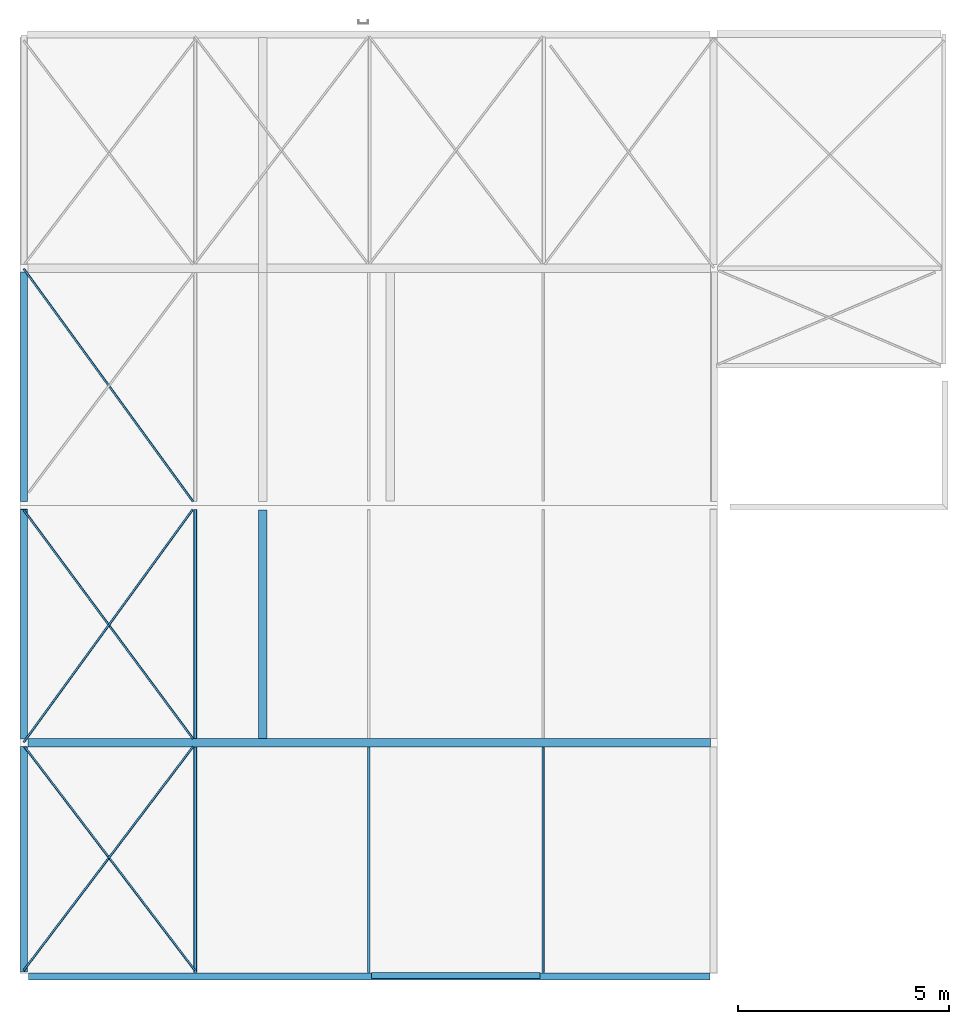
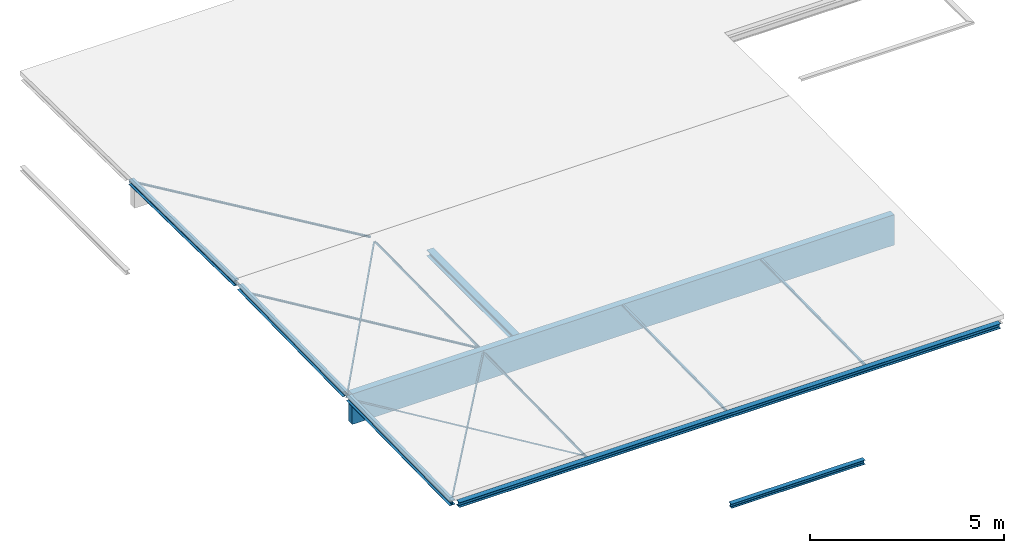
# One storey, part 1 of 5: 16 beams.
"""IFC2X3 building model written with IfcOpenShell, lengths in millimetres."""

import ifcopenshell
import ifcopenshell.guid

model = None  # the IFC model being written
_history = None  # IfcOwnerHistory: only IFC2X3 demands one
_inside = {}  # id of a spatial element -> (the spatial element, [elements in it])
_under = {}  # id of a project, library or spatial element -> (it, [spatial elements below it])
_declared = {}  # id of a project -> (the project, [libraries it declares])
_typed = {}  # id of a type object -> (the type object, [elements of that type])
_made_of = {}  # id of a material, layer set ... -> (it, [elements and type objects made of it])


def new_model(schema):
    """Start an empty IFC model of exactly this schema.

    Asked for "IFC4X3", IfcOpenShell would pick the latest addendum, in which some entities
    have other attributes; the version numbers below select the first issue.
    IFC2X3 requires an IfcOwnerHistory on every rooted entity: one is made here for all.
    """
    global model, _history
    if schema == "IFC4X3":
        model = ifcopenshell.file(schema_version=(4, 3, 0, 0))
    else:
        model = ifcopenshell.file(schema=schema)
    _inside.clear()
    _under.clear()
    _declared.clear()
    _typed.clear()
    _made_of.clear()
    _history = None
    if model.schema == "IFC2X3":
        org = make("IfcOrganization", Name="unknown")
        user = make(
            "IfcPersonAndOrganization",
            ThePerson=make("IfcPerson", FamilyName="unknown"),
            TheOrganization=org,
        )
        app = make(
            "IfcApplication",
            ApplicationDeveloper=org,
            Version="unknown",
            ApplicationFullName="unknown",
            ApplicationIdentifier="unknown",
        )
        _history = make(
            "IfcOwnerHistory",
            OwningUser=user,
            OwningApplication=app,
            ChangeAction="ADDED",
            CreationDate=0,
        )
    return model


def make(cls, **values):
    """One entity of the class cls with the attributes given. An attribute that is None is left unset."""
    return model.create_entity(
        cls, **{name: value for name, value in values.items() if value is not None}
    )


def entity(cls, *values):
    """Any entity or typed value of the class cls, its attributes in the order of the schema. None: left unset."""
    e = model.create_entity(cls)
    for i, value in enumerate(values):
        if value is not None:
            e[i] = value
    return e


def rooted(cls, **values):
    """An entity with a GlobalId (a new one), such as an element, a storey or a relation."""
    return make(cls, GlobalId=ifcopenshell.guid.new(), OwnerHistory=_history, **values)


def si_unit(unit_type, name, prefix=None):
    """IfcSIUnit, for example si_unit("LENGTHUNIT", "METRE", prefix="MILLI")."""
    return make("IfcSIUnit", UnitType=unit_type, Prefix=prefix, Name=name)


def converted_unit(unit_type, name, factor, base, dimensions=None, offset=None):
    """IfcConversionBasedUnit, such as the inch: factor (a typed value) times the base unit."""
    return make(
        "IfcConversionBasedUnit"
        if offset is None
        else "IfcConversionBasedUnitWithOffset",
        ConversionOffset=offset,
        Dimensions=None
        if dimensions is None
        else entity("IfcDimensionalExponents", *dimensions),
        UnitType=unit_type,
        Name=name,
        ConversionFactor=make(
            "IfcMeasureWithUnit", ValueComponent=factor, UnitComponent=base
        ),
    )


def derived_unit(unit_type, elements):
    """IfcDerivedUnit: a product of units, each with its exponent."""
    return make(
        "IfcDerivedUnit",
        Elements=[
            make("IfcDerivedUnitElement", Unit=unit, Exponent=power)
            for unit, power in elements
        ],
        UnitType=unit_type,
    )


def assignment(units):
    """IfcUnitAssignment: the units of a project."""
    return None if units is None else make("IfcUnitAssignment", Units=units)


def point(xyz):
    """IfcCartesianPoint."""
    return None if xyz is None else make("IfcCartesianPoint", Coordinates=xyz)


def direction(xyz):
    """IfcDirection."""
    return None if xyz is None else make("IfcDirection", DirectionRatios=xyz)


def frame(location, z_axis=None, x_axis=None):
    """IfcAxis2Placement3D, a coordinate frame: its origin and axes. An axis left out is left unset."""
    return make(
        "IfcAxis2Placement3D",
        Location=point(location),
        Axis=direction(z_axis),
        RefDirection=direction(x_axis),
    )


def frame_2d(location, x_axis=None):
    """IfcAxis2Placement2D, a coordinate frame in the plane: its origin and x axis."""
    return make(
        "IfcAxis2Placement2D", Location=point(location), RefDirection=direction(x_axis)
    )


def origin():
    """The frame at (0, 0, 0) with its axes left unset."""
    return frame((0.0, 0.0, 0.0))


def place(relative_to, where):
    """IfcLocalPlacement: puts the frame where relative to a parent placement (None: the world)."""
    return make(
        "IfcLocalPlacement", PlacementRelTo=relative_to, RelativePlacement=where
    )


def context(
    kind, dimensions, precision=None, world=None, true_north=None, identifier=None
):
    """IfcGeometricRepresentationContext, for example the 3D "Model" context."""
    return make(
        "IfcGeometricRepresentationContext",
        ContextIdentifier=identifier,
        ContextType=kind,
        CoordinateSpaceDimension=dimensions,
        Precision=precision,
        WorldCoordinateSystem=world,
        TrueNorth=true_north,
    )


def subcontext(parent, identifier, kind, view, scale=None):
    """IfcGeometricRepresentationSubContext, for example "Body" below "Model"."""
    return make(
        "IfcGeometricRepresentationSubContext",
        ContextIdentifier=identifier,
        ContextType=kind,
        ParentContext=parent,
        TargetScale=scale,
        TargetView=view,
    )


def project(units=None, contexts=None):
    """IfcProject with its units and contexts."""
    return rooted(
        "IfcProject",
        Name="project",
        RepresentationContexts=contexts,
        UnitsInContext=assignment(units),
    )


def spatial(cls, under=None, at=None, **own):
    """A site, building, storey or space (cls), placed at a placement, below another one or the project."""
    s = rooted(cls, ObjectPlacement=at, **own)
    if under is not None:
        _under.setdefault(under.id(), (under, []))[1].append(s)
    return s


def polyline(points):
    """IfcPolyline through the points."""
    return make("IfcPolyline", Points=[point(p) for p in points])


def circle_curve(where, radius):
    """IfcCircle in the frame where."""
    return make("IfcCircle", Position=where, Radius=radius)


def parameter(value):
    """IfcParameterValue: where a trimmed curve begins or ends, as a parameter of its basis curve."""
    return model.create_entity("IfcParameterValue", value)


def trimmed(basis, trim1, trim2, sense, master):
    """IfcTrimmedCurve: the piece of a basis curve between two trims."""
    return make(
        "IfcTrimmedCurve",
        BasisCurve=basis,
        Trim1=trim1,
        Trim2=trim2,
        SenseAgreement=sense,
        MasterRepresentation=master,
    )


def segment(curve, same_sense, transition):
    """IfcCompositeCurveSegment."""
    return make(
        "IfcCompositeCurveSegment",
        Transition=transition,
        SameSense=same_sense,
        ParentCurve=curve,
    )


def composite_curve(segments, self_intersect=None):
    """IfcCompositeCurve: segments joined end to end."""
    return make("IfcCompositeCurve", Segments=segments, SelfIntersect=self_intersect)


def profile(cls, at=None, kind="AREA", **sizes):
    """A parametric profile (cls). Its sizes go by their IFC names, for example OverallWidth=200.0."""
    return make(cls, ProfileType=kind, Position=at, **sizes)


def rectangle(**sizes):
    """IfcRectangleProfileDef."""
    return profile("IfcRectangleProfileDef", **sizes)


def i_section(**sizes):
    """IfcIShapeProfileDef."""
    return profile("IfcIShapeProfileDef", **sizes)


def outline(outer, holes=None, kind="AREA"):
    """IfcArbitraryClosedProfileDef: a profile drawn as a closed curve; with holes, ...WithVoids."""
    if holes is None:
        return make("IfcArbitraryClosedProfileDef", ProfileType=kind, OuterCurve=outer)
    return make(
        "IfcArbitraryProfileDefWithVoids",
        ProfileType=kind,
        OuterCurve=outer,
        InnerCurves=holes,
    )


def extrude(swept, where, along, depth):
    """IfcExtrudedAreaSolid: the profile swept, set in the frame where, extruded along a direction by depth."""
    return make(
        "IfcExtrudedAreaSolid",
        SweptArea=swept,
        Position=where,
        ExtrudedDirection=direction(along),
        Depth=depth,
    )


def shape(context_of_items, identifier, shape_type, items):
    """IfcShapeRepresentation: the items that make up one representation, for example the "Body"."""
    return make(
        "IfcShapeRepresentation",
        ContextOfItems=context_of_items,
        RepresentationIdentifier=identifier,
        RepresentationType=shape_type,
        Items=items,
    )


def material(Name=None, Category=None):
    """IfcMaterial."""
    return make("IfcMaterial", Name=Name, Category=Category)


def made_of(thing, what):
    """Note that an element or type object is made of a material, layer set ...; save() writes the relation."""
    if what is not None:
        _made_of.setdefault(what.id(), (what, []))[1].append(thing)
    return thing


def type_object(cls, material=None, **own):
    """A type object (cls), such as IfcWallType, which elements share."""
    return made_of(rooted(cls, **own), material)


def element(
    cls,
    number,
    at=None,
    inside=None,
    cuts=None,
    type_object=None,
    material=None,
    context=None,
    identifier="Body",
    shape_type=None,
    held_by="IfcProductDefinitionShape",
    body=None,
    shapes=None,
    **own,
):
    """One element of the class cls, such as IfcWall. Its Tag is "e" and its number.

    at: its placement. inside: the storey or other place that contains it. cuts: it is an
    opening in that element (IfcRelVoidsElement). A single representation is given by context,
    identifier, shape_type and body (its items); several are given by shapes. held_by: the class
    of the entity that holds the representations. save() writes the other relations.
    """
    e = rooted(cls, Tag="e%d" % number, ObjectPlacement=at, **own)
    if body is not None:
        shapes = [shape(context, identifier, shape_type, body)]
    if shapes is not None:
        e.Representation = make(held_by, Representations=shapes)
    if inside is not None:
        _inside.setdefault(inside.id(), (inside, []))[1].append(e)
    if cuts is not None:
        rooted(
            "IfcRelVoidsElement", RelatingBuildingElement=cuts, RelatedOpeningElement=e
        )
    if type_object is not None:
        _typed.setdefault(type_object.id(), (type_object, []))[1].append(e)
    return made_of(e, material)


def aggregate(whole, parts):
    """IfcRelAggregates: a whole, such as a stair, and the parts it consists of."""
    return rooted("IfcRelAggregates", RelatingObject=whole, RelatedObjects=parts)


def save(model, path):
    """Write the relations noted so far, then the file.

    IfcRelAggregates (storeys below a building ...), IfcRelContainedInSpatialStructure (elements
    in a storey), IfcRelDefinesByType, IfcRelAssociatesMaterial and IfcRelDeclares: one each for
    every whole, place, type object, material and project.
    """
    for whole, parts in _under.values():
        aggregate(whole, parts)
    for where, things in _inside.values():
        rooted(
            "IfcRelContainedInSpatialStructure",
            RelatedElements=things,
            RelatingStructure=where,
        )
    for kind, things in _typed.values():
        rooted("IfcRelDefinesByType", RelatedObjects=things, RelatingType=kind)
    for what, things in _made_of.values():
        rooted("IfcRelAssociatesMaterial", RelatedObjects=things, RelatingMaterial=what)
    for by, libraries in _declared.values():
        rooted("IfcRelDeclares", RelatingContext=by, RelatedDefinitions=libraries)
    model.write(path)


model = new_model("IFC2X3")

# Units and contexts
model_context = context("Model", 3, precision=0.01, world=origin(), true_north=direction((6.123031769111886e-17, 1.0)))
plan_context = context("Plan", 3, precision=0.01, world=origin(), true_north=direction((6.123031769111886e-17, 1.0)))
body_context = subcontext(model_context, "Body", "Model", "MODEL_VIEW")
ifc_project = project(units=[si_unit("LENGTHUNIT", "METRE", prefix="MILLI"), si_unit("AREAUNIT", "SQUARE_METRE"), si_unit("VOLUMEUNIT", "CUBIC_METRE"), converted_unit("PLANEANGLEUNIT", "DEGREE", entity("IfcPlaneAngleMeasure", 0.017453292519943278), si_unit("PLANEANGLEUNIT", "RADIAN"), dimensions=[0, 0, 0, 0, 0, 0, 0]), si_unit("MASSUNIT", "GRAM", prefix="KILO"), derived_unit("MASSDENSITYUNIT", [(si_unit("MASSUNIT", "GRAM", prefix="KILO"), 1), (si_unit("LENGTHUNIT", "METRE"), -3)]), derived_unit("IONCONCENTRATIONUNIT", [(si_unit("MASSUNIT", "GRAM", prefix="KILO"), 1), (si_unit("LENGTHUNIT", "METRE"), -3)]), derived_unit("MOMENTOFINERTIAUNIT", [(si_unit("LENGTHUNIT", "METRE"), 4)]), si_unit("TIMEUNIT", "SECOND"), si_unit("FREQUENCYUNIT", "HERTZ"), si_unit("THERMODYNAMICTEMPERATUREUNIT", "DEGREE_CELSIUS"), derived_unit("THERMALTRANSMITTANCEUNIT", [(si_unit("MASSUNIT", "GRAM", prefix="KILO"), 1), (si_unit("THERMODYNAMICTEMPERATUREUNIT", "KELVIN"), -1), (si_unit("TIMEUNIT", "SECOND"), -3)]), derived_unit("THERMALCONDUCTANCEUNIT", [(si_unit("MASSUNIT", "GRAM", prefix="KILO"), 1), (si_unit("THERMODYNAMICTEMPERATUREUNIT", "KELVIN"), -1), (si_unit("TIMEUNIT", "SECOND"), -3), (si_unit("LENGTHUNIT", "METRE"), 1)]), derived_unit("VOLUMETRICFLOWRATEUNIT", [(si_unit("LENGTHUNIT", "METRE", prefix="DECI"), 3), (si_unit("TIMEUNIT", "SECOND"), -1)]), derived_unit("MASSFLOWRATEUNIT", [(si_unit("MASSUNIT", "GRAM", prefix="KILO"), 1), (si_unit("TIMEUNIT", "SECOND"), -1)]), derived_unit("ROTATIONALFREQUENCYUNIT", [(si_unit("TIMEUNIT", "SECOND"), -1)]), si_unit("ELECTRICCURRENTUNIT", "AMPERE"), si_unit("ELECTRICVOLTAGEUNIT", "VOLT"), si_unit("POWERUNIT", "WATT"), si_unit("FORCEUNIT", "NEWTON", prefix="KILO"), si_unit("ILLUMINANCEUNIT", "LUX"), si_unit("LUMINOUSFLUXUNIT", "LUMEN"), si_unit("LUMINOUSINTENSITYUNIT", "CANDELA"), si_unit("ENERGYUNIT", "JOULE"), derived_unit("USERDEFINED", [(si_unit("MASSUNIT", "GRAM", prefix="KILO"), -1), (si_unit("LENGTHUNIT", "METRE"), -2), (si_unit("TIMEUNIT", "SECOND"), 3), (si_unit("LUMINOUSFLUXUNIT", "LUMEN"), 1)]), derived_unit("USERDEFINED", [(si_unit("MASSUNIT", "GRAM", prefix="KILO"), 1), (si_unit("TIMEUNIT", "SECOND"), -3), (si_unit("LENGTHUNIT", "METRE"), 3), (si_unit("ELECTRICCURRENTUNIT", "AMPERE"), -2)]), derived_unit("SOUNDPOWERUNIT", [(si_unit("MASSUNIT", "GRAM", prefix="KILO"), 1), (si_unit("TIMEUNIT", "SECOND"), -3), (si_unit("LENGTHUNIT", "METRE"), 2)]), derived_unit("SOUNDPRESSUREUNIT", [(si_unit("MASSUNIT", "GRAM", prefix="KILO"), 1), (si_unit("LENGTHUNIT", "METRE"), -1), (si_unit("TIMEUNIT", "SECOND"), -2)]), derived_unit("LINEARVELOCITYUNIT", [(si_unit("LENGTHUNIT", "METRE"), 1), (si_unit("TIMEUNIT", "SECOND"), -1)]), si_unit("PRESSUREUNIT", "PASCAL"), derived_unit("USERDEFINED", [(si_unit("MASSUNIT", "GRAM", prefix="KILO"), 1), (si_unit("LENGTHUNIT", "METRE"), -2), (si_unit("TIMEUNIT", "SECOND"), -2)]), derived_unit("LINEARFORCEUNIT", [(si_unit("MASSUNIT", "GRAM", prefix="KILO"), 1), (si_unit("TIMEUNIT", "SECOND"), -2)]), derived_unit("PLANARFORCEUNIT", [(si_unit("MASSUNIT", "GRAM", prefix="KILO"), 1), (si_unit("LENGTHUNIT", "METRE"), -1), (si_unit("TIMEUNIT", "SECOND"), -2)]), derived_unit("SPECIFICHEATCAPACITYUNIT", [(si_unit("THERMODYNAMICTEMPERATUREUNIT", "KELVIN"), -1), (si_unit("LENGTHUNIT", "METRE"), 2), (si_unit("TIMEUNIT", "SECOND"), -2)]), derived_unit("HEATFLUXDENSITYUNIT", [(si_unit("MASSUNIT", "GRAM", prefix="KILO"), 1), (si_unit("TIMEUNIT", "SECOND"), -3)]), derived_unit("HEATINGVALUEUNIT", [(si_unit("LENGTHUNIT", "METRE"), 2), (si_unit("TIMEUNIT", "SECOND"), -2)]), derived_unit("VAPORPERMEABILITYUNIT", [(si_unit("LENGTHUNIT", "METRE"), -1), (si_unit("TIMEUNIT", "SECOND"), 1)]), derived_unit("DYNAMICVISCOSITYUNIT", [(si_unit("MASSUNIT", "GRAM", prefix="KILO"), 1), (si_unit("TIMEUNIT", "SECOND"), -1), (si_unit("LENGTHUNIT", "METRE"), -1)]), derived_unit("THERMALEXPANSIONCOEFFICIENTUNIT", [(si_unit("THERMODYNAMICTEMPERATUREUNIT", "KELVIN"), -1)]), derived_unit("MODULUSOFELASTICITYUNIT", [(si_unit("MASSUNIT", "GRAM", prefix="KILO"), 1), (si_unit("LENGTHUNIT", "METRE"), -1), (si_unit("TIMEUNIT", "SECOND"), -2)]), derived_unit("ISOTHERMALMOISTURECAPACITYUNIT", [(si_unit("MASSUNIT", "GRAM", prefix="KILO"), -1), (si_unit("LENGTHUNIT", "METRE"), 3)]), derived_unit("MOISTUREDIFFUSIVITYUNIT", [(si_unit("TIMEUNIT", "SECOND"), -1), (si_unit("LENGTHUNIT", "METRE"), 2)]), derived_unit("MASSPERLENGTHUNIT", [(si_unit("MASSUNIT", "GRAM", prefix="KILO"), 1), (si_unit("LENGTHUNIT", "METRE"), -1)]), derived_unit("THERMALRESISTANCEUNIT", [(si_unit("MASSUNIT", "GRAM", prefix="KILO"), -1), (si_unit("TIMEUNIT", "SECOND"), 3), (si_unit("THERMODYNAMICTEMPERATUREUNIT", "KELVIN"), 1)]), derived_unit("ACCELERATIONUNIT", [(si_unit("LENGTHUNIT", "METRE"), 1), (si_unit("TIMEUNIT", "SECOND"), -2)]), derived_unit("ANGULARVELOCITYUNIT", [(si_unit("TIMEUNIT", "SECOND"), -1), (si_unit("PLANEANGLEUNIT", "RADIAN"), 1)]), derived_unit("LINEARSTIFFNESSUNIT", [(si_unit("MASSUNIT", "GRAM", prefix="KILO"), 1), (si_unit("TIMEUNIT", "SECOND"), -2)]), derived_unit("WARPINGCONSTANTUNIT", [(si_unit("LENGTHUNIT", "METRE"), 6)]), derived_unit("LINEARMOMENTUNIT", [(si_unit("MASSUNIT", "GRAM", prefix="KILO"), 1), (si_unit("LENGTHUNIT", "METRE"), 1), (si_unit("TIMEUNIT", "SECOND"), -2)]), derived_unit("TORQUEUNIT", [(si_unit("MASSUNIT", "GRAM", prefix="KILO"), 1), (si_unit("LENGTHUNIT", "METRE"), 2), (si_unit("TIMEUNIT", "SECOND"), -2)])], contexts=[model_context, plan_context])

# Site, building, storey
site_placement = place(None, origin())
site = spatial("IfcSite", under=ifc_project, at=site_placement, Name="Default", CompositionType="ELEMENT")
building_placement = place(site_placement, origin())
building = spatial("IfcBuilding", under=site, at=building_placement, CompositionType="ELEMENT")
storey_placement = place(building_placement, frame((0.0, 0.0, 6700.0)))
storey = spatial("IfcBuildingStorey", under=building, at=storey_placement, Name="02 tweede verdieping", CompositionType="ELEMENT", Elevation=6700.000000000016)

# Beams
ifc_material_1 = material(Name="constructiehout GL28h")
beam_type_1 = type_object("IfcBeamType", Name="28_SF_LIB_houten ligger rechthoekig_dw:200x960 (GL28h)", PredefinedType="NOTDEFINED")
beam_1_placement = place(storey_placement, frame((34256.19293735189, 21872.670340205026, 85.0)))
element("IfcBeam", 1, at=beam_1_placement, inside=storey, type_object=beam_type_1, material=ifc_material_1, Name="28_SF_LIB_houten ligger rechthoekig_dw:200x960 (GL28h)", ObjectType="28_SF_LIB_houten ligger rechthoekig_dw:200x960 (GL28h)", context=body_context, shape_type="SweptSolid", body=[
    extrude(rectangle(XDim=960.0000000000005, YDim=199.99999999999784, at=frame_2d((-5.400124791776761e-13, 5.197620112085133e-11), x_axis=(1.0, 0.0))), frame((0.0, 0.0, -480.0), z_axis=(1.0, 0.0, 0.0), x_axis=(0.0, 0.0, -1.0)), (0.0, 0.0, 1.0), 16158.999999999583),
])
ifc_material_2 = material(Name="constructiestaal S235")
beam_type_2 = type_object("IfcBeamType", Name="28_SF_LIB_HEA ligger_dw:HE160A (S235)", PredefinedType="NOTDEFINED")
beam_2_placement = place(storey_placement, frame((34266.19293735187, 16332.670463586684, 0.0)))
element("IfcBeam", 2, at=beam_2_placement, inside=storey, type_object=beam_type_2, material=ifc_material_2, Name="28_SF_LIB_HEA ligger_dw:HE160A (S235)", ObjectType="28_SF_LIB_HEA ligger_dw:HE160A (S235)", context=body_context, shape_type="SweptSolid", body=[
    extrude(i_section(OverallWidth=160.00000000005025, OverallDepth=152.00000000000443, WebThickness=5.999999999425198, FlangeThickness=9.000000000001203, FilletRadius=15.000000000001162, at=frame_2d((1.0800249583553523e-12, 2.1671553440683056e-12), x_axis=(0.0, 1.0))), frame((0.0, 0.0, -76.0), z_axis=(1.0, 0.0, 0.0), x_axis=(0.0, 0.0, -1.0)), (0.0, 0.0, 1.0), 16140.000000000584),
])
beam_3_placement = place(storey_placement, frame((34161.182851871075, 27583.86409632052, 176.02735195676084), z_axis=(0.0, 0.01570731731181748, 0.9998766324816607), x_axis=(0.0, 0.9998766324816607, -0.01570731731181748)))
element("IfcBeam", 3, at=beam_3_placement, inside=storey, type_object=beam_type_2, material=ifc_material_2, Name="28_SF_LIB_HEA ligger_dw:HE160A (S235)", ObjectType="28_SF_LIB_HEA ligger_dw:HE160A (S235)", context=body_context, shape_type="SweptSolid", body=[
    extrude(i_section(OverallWidth=159.99999999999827, OverallDepth=152.000000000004, WebThickness=5.999999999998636, FlangeThickness=9.00000000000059, FilletRadius=15.000000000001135, at=frame_2d((5.400124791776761e-13, 6.494360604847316e-12), x_axis=(0.0, 1.0))), frame((0.0, 0.0, -76.0), z_axis=(1.0, 0.0, 0.0), x_axis=(0.0, 0.0, -1.0)), (0.0, 0.0, 1.0), 5440.671202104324),
])
beam_4_placement = place(storey_placement, frame((34161.18285187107, 21961.47658408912, 90.56900299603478), z_axis=(0.0, -0.01570731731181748, 0.9998766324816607), x_axis=(0.0, 0.9998766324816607, 0.01570731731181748)))
element("IfcBeam", 4, at=beam_4_placement, inside=storey, type_object=beam_type_2, material=ifc_material_2, Name="28_SF_LIB_HEA ligger_dw:HE160A (S235)", ObjectType="28_SF_LIB_HEA ligger_dw:HE160A (S235)", context=body_context, shape_type="SweptSolid", body=[
    extrude(i_section(OverallWidth=159.99999999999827, OverallDepth=152.000000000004, WebThickness=5.999999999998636, FlangeThickness=9.00000000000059, FilletRadius=15.000000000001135, at=frame_2d((1.6200374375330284e-12, 2.1600499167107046e-12), x_axis=(0.0, 1.0))), frame((0.0, 0.0, -76.0), z_axis=(1.0, 0.0, 0.0), x_axis=(0.0, 0.0, -1.0)), (0.0, 0.0, 1.0), 5440.671202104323),
])
beam_5_placement = place(storey_placement, frame((34161.18285187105, 16438.976584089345, 3.814640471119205), z_axis=(0.0, -0.01570731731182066, 0.9998766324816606), x_axis=(0.0, 0.9998766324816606, 0.01570731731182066)))
element("IfcBeam", 5, at=beam_5_placement, inside=storey, type_object=beam_type_2, material=ifc_material_2, Name="28_SF_LIB_HEA ligger_dw:HE160A (S235)", ObjectType="28_SF_LIB_HEA ligger_dw:HE160A (S235)", context=body_context, shape_type="SweptSolid", body=[
    extrude(i_section(OverallWidth=159.99999999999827, OverallDepth=152.0000000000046, WebThickness=5.999999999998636, FlangeThickness=9.000000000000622, FilletRadius=15.000000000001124, at=frame_2d((1.6271428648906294e-12, 2.1600499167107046e-12), x_axis=(0.0, 1.0))), frame((0.0, 0.0, -76.0), z_axis=(1.0, 0.0, 0.0), x_axis=(0.0, 0.0, -1.0)), (0.0, 0.0, 1.0), 5343.159172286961),
])
beam_type_3 = type_object("IfcBeamType", Name="28_SF_LIB_L ligger gelijkbenig_dw:L80x80x6 (S235)", PredefinedType="NOTDEFINED")
beam_6_placement = place(storey_placement, frame((38196.1929373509, 21971.737810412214, 96.73093951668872), z_axis=(0.0, -0.015707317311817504, 0.9998766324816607), x_axis=(0.0, 0.9998766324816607, 0.015707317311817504)))
element("IfcBeam", 6, at=beam_6_placement, inside=storey, type_object=beam_type_3, material=ifc_material_2, Name="28_SF_LIB_L ligger gelijkbenig_dw:L80x80x6 (S235)", ObjectType="28_SF_LIB_L ligger gelijkbenig_dw:L80x80x6 (S235)", context=body_context, shape_type="SweptSolid", body=[
    extrude(outline(composite_curve([segment(polyline([(28.333333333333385, -50.66666666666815), (29.333333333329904, -50.66666666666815)]), True, "CONTINUOUS"), segment(polyline([(29.333333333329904, -50.66666666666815), (29.333333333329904, 29.333333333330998)]), True, "CONTINUOUS"), segment(polyline([(29.333333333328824, 29.333333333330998), (-50.66666666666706, 29.333333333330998)]), True, "CONTINUOUS"), segment(polyline([(-50.66666666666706, 29.333333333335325), (-50.66666666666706, 28.333333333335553)]), True, "CONTINUOUS"), segment(trimmed(circle_curve(frame_2d((-45.66666666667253, 28.333333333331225), x_axis=(-1.0, 0.0)), 4.999999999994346), [parameter(0.0)], [parameter(90.00000000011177)], True, "PARAMETER"), True, "CONTINUOUS"), segment(polyline([(-45.66666666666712, 23.33333333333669), (13.333333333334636, 23.33333333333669)]), True, "CONTINUOUS"), segment(trimmed(circle_curve(frame_2d((13.333333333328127, 13.333333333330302), x_axis=(0.0, 1.0)), 10.000000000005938), [parameter(270.00000000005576)], [parameter(0.0)], True, "PARAMETER"), False, "CONTINUOUS"), segment(polyline([(23.333333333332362, 13.333333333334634), (23.333333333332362, -45.666666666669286)]), True, "CONTINUOUS"), segment(trimmed(circle_curve(frame_2d((28.33333333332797, -45.66666666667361), x_axis=(-1.0, 0.0)), 4.999999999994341), [parameter(0.0)], [parameter(90.00000000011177)], True, "PARAMETER"), True, "CONTINUOUS")], self_intersect=False)), frame((0.0, -6.7934188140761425, -83.21666666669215), z_axis=(1.0, 0.0, 0.0), x_axis=(0.0, 0.0, -1.0)), (0.0, 0.0, 1.0), 5420.000000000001),
])
beam_7_placement = place(storey_placement, frame((38196.19293735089, 16431.062937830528, 3.690322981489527), z_axis=(0.0, -0.015707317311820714, 0.9998766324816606), x_axis=(0.0, 0.9998766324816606, 0.015707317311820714)))
element("IfcBeam", 7, at=beam_7_placement, inside=storey, type_object=beam_type_3, material=ifc_material_2, Name="28_SF_LIB_L ligger gelijkbenig_dw:L80x80x6 (S235)", ObjectType="28_SF_LIB_L ligger gelijkbenig_dw:L80x80x6 (S235)", context=body_context, shape_type="SweptSolid", body=[
    extrude(outline(composite_curve([segment(polyline([(28.33333333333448, -50.66666666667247), (29.333333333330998, -50.66666666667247)]), True, "CONTINUOUS"), segment(polyline([(29.333333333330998, -50.66666666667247), (29.333333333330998, 29.333333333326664)]), True, "CONTINUOUS"), segment(polyline([(29.333333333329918, 29.333333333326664), (-50.666666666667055, 29.333333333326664)]), True, "CONTINUOUS"), segment(polyline([(-50.666666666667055, 29.333333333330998), (-50.666666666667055, 28.333333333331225)]), True, "CONTINUOUS"), segment(trimmed(circle_curve(frame_2d((-45.66666666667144, 28.33333333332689), x_axis=(-1.0, 0.0)), 4.999999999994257), [parameter(0.0)], [parameter(90.00000000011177)], True, "PARAMETER"), True, "CONTINUOUS"), segment(polyline([(-45.666666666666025, 23.333333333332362), (13.333333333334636, 23.333333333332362)]), True, "CONTINUOUS"), segment(trimmed(circle_curve(frame_2d((13.333333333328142, 13.333333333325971), x_axis=(0.0, 1.0)), 10.000000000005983), [parameter(270.00000000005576)], [parameter(0.0)], True, "PARAMETER"), False, "CONTINUOUS"), segment(polyline([(23.333333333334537, 13.333333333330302), (23.333333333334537, -45.666666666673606)]), True, "CONTINUOUS"), segment(trimmed(circle_curve(frame_2d((28.333333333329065, -45.66666666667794), x_axis=(-1.0, 0.0)), 4.999999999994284), [parameter(0.0)], [parameter(90.00000000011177)], True, "PARAMETER"), True, "CONTINUOUS")], self_intersect=False)), frame((0.0, -6.793418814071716, -83.21666666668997), z_axis=(1.0, 0.0, 0.0), x_axis=(0.0, 0.0, -1.0)), (0.0, 0.0, 1.0), 5341.49987661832),
])
ifc_material_3 = material(Name="constructiestaal S275")
beam_type_4 = type_object("IfcBeamType", Name="28_SF_LIB_koker ligger_dw:K60x60x6 (S275)", PredefinedType="NOTDEFINED")
beam_8_placement = place(storey_placement, frame((42326.19293735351, 16430.92157488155, 9.688842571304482), z_axis=(0.0, -0.015707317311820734, 0.9998766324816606), x_axis=(0.0, 0.9998766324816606, 0.015707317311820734)))
element("IfcBeam", 8, at=beam_8_placement, inside=storey, type_object=beam_type_4, material=ifc_material_3, Name="28_SF_LIB_koker ligger_dw:K60x60x6 (S275)", ObjectType="28_SF_LIB_koker ligger_dw:K60x60x6 (S275)", context=body_context, shape_type="SweptSolid", body=[
    extrude(outline(composite_curve([segment(polyline([(-22.50000000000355, -30.0), (22.499999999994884, -30.0)]), True, "CONTINUOUS"), segment(trimmed(circle_curve(frame_2d((22.499999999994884, -22.49999999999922), x_axis=(1.0, 0.0)), 7.5), [parameter(269.9999999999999)], [parameter(0.0)], True, "PARAMETER"), True, "CONTINUOUS"), segment(polyline([(30.0, -22.49999999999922), (30.0, 22.5000000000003)]), True, "CONTINUOUS"), segment(trimmed(circle_curve(frame_2d((22.499999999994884, 22.5000000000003), x_axis=(0.0, 1.0)), 7.5), [parameter(269.9999999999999)], [parameter(359.99999999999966)], True, "PARAMETER"), True, "CONTINUOUS"), segment(polyline([(22.499999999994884, 30.0), (-22.50000000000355, 30.0)]), True, "CONTINUOUS"), segment(trimmed(circle_curve(frame_2d((-22.50000000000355, 22.5000000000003), x_axis=(-1.0, 0.0)), 7.5), [parameter(269.9999999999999)], [parameter(359.99999999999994)], True, "PARAMETER"), True, "CONTINUOUS"), segment(polyline([(-30.0, 22.5000000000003), (-30.0, -22.49999999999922)]), True, "CONTINUOUS"), segment(trimmed(circle_curve(frame_2d((-22.50000000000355, -22.49999999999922), x_axis=(0.0, -1.0)), 7.5), [parameter(269.9999999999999)], [parameter(359.99999999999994)], True, "PARAMETER"), True, "CONTINUOUS")], self_intersect=False), holes=[composite_curve([segment(trimmed(circle_curve(frame_2d((-18.0, -18.0), x_axis=(-1.0, 0.0)), 6.0), [parameter(5.088887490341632e-14)], [parameter(90.00000000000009)], True, "PARAMETER"), False, "CONTINUOUS"), segment(polyline([(-24.0, -18.0), (-24.0, 18.0)]), True, "CONTINUOUS"), segment(trimmed(circle_curve(frame_2d((-18.0, 18.0), x_axis=(0.0, 1.0)), 6.0), [parameter(0.0)], [parameter(90.00000000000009)], True, "PARAMETER"), False, "CONTINUOUS"), segment(polyline([(-18.0, 24.0), (18.0, 24.0)]), True, "CONTINUOUS"), segment(trimmed(circle_curve(frame_2d((18.0, 18.0), x_axis=(1.0, 0.0)), 6.0), [parameter(0.0)], [parameter(90.00000000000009)], True, "PARAMETER"), False, "CONTINUOUS"), segment(polyline([(24.0, 18.0), (24.0, -18.0)]), True, "CONTINUOUS"), segment(trimmed(circle_curve(frame_2d((18.0, -18.0), x_axis=(0.0, -1.0)), 6.0), [parameter(5.088887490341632e-14)], [parameter(90.00000000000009)], True, "PARAMETER"), False, "CONTINUOUS"), segment(polyline([(18.0, -24.0), (-18.0, -24.0)]), True, "CONTINUOUS")], self_intersect=False)]), frame((0.0, -0.01008548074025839, -30.0), z_axis=(1.0, 0.0, 0.0), x_axis=(0.0, -1.0, 0.0)), (0.0, 0.0, 1.0), 5341.499876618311),
])
beam_9_placement = place(storey_placement, frame((46456.19293735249, 16431.062937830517, 3.690322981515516), z_axis=(0.0, -0.01570731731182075, 0.9998766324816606), x_axis=(0.0, 0.9998766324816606, 0.01570731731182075)))
element("IfcBeam", 9, at=beam_9_placement, inside=storey, type_object=beam_type_4, material=ifc_material_3, Name="28_SF_LIB_koker ligger_dw:K60x60x6 (S275)", ObjectType="28_SF_LIB_koker ligger_dw:K60x60x6 (S275)", context=body_context, shape_type="SweptSolid", body=[
    extrude(outline(composite_curve([segment(polyline([(-22.499999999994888, -30.0), (22.500000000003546, -30.0)]), True, "CONTINUOUS"), segment(trimmed(circle_curve(frame_2d((22.500000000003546, -22.5000000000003), x_axis=(1.0, 0.0)), 7.5), [parameter(269.9999999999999)], [parameter(0.0)], True, "PARAMETER"), True, "CONTINUOUS"), segment(polyline([(30.0, -22.5000000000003), (30.0, 22.49999999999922)]), True, "CONTINUOUS"), segment(trimmed(circle_curve(frame_2d((22.500000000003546, 22.49999999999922), x_axis=(0.0, 1.0)), 7.5), [parameter(269.9999999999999)], [parameter(359.99999999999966)], True, "PARAMETER"), True, "CONTINUOUS"), segment(polyline([(22.500000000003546, 30.0), (-22.499999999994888, 30.0)]), True, "CONTINUOUS"), segment(trimmed(circle_curve(frame_2d((-22.499999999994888, 22.49999999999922), x_axis=(-1.0, 0.0)), 7.5), [parameter(269.9999999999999)], [parameter(359.99999999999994)], True, "PARAMETER"), True, "CONTINUOUS"), segment(polyline([(-30.0, 22.49999999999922), (-30.0, -22.5000000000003)]), True, "CONTINUOUS"), segment(trimmed(circle_curve(frame_2d((-22.499999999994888, -22.5000000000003), x_axis=(0.0, -1.0)), 7.5), [parameter(269.9999999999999)], [parameter(359.99999999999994)], True, "PARAMETER"), True, "CONTINUOUS")], self_intersect=False), holes=[composite_curve([segment(trimmed(circle_curve(frame_2d((-18.0, -18.0), x_axis=(-1.0, 0.0)), 6.0), [parameter(5.088887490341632e-14)], [parameter(90.00000000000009)], True, "PARAMETER"), False, "CONTINUOUS"), segment(polyline([(-24.0, -18.0), (-24.0, 18.0)]), True, "CONTINUOUS"), segment(trimmed(circle_curve(frame_2d((-18.0, 18.0), x_axis=(0.0, 1.0)), 6.0), [parameter(0.0)], [parameter(90.00000000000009)], True, "PARAMETER"), False, "CONTINUOUS"), segment(polyline([(-18.0, 24.0), (18.0, 24.0)]), True, "CONTINUOUS"), segment(trimmed(circle_curve(frame_2d((18.0, 18.0), x_axis=(1.0, 0.0)), 6.0), [parameter(0.0)], [parameter(90.00000000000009)], True, "PARAMETER"), False, "CONTINUOUS"), segment(polyline([(24.0, 18.0), (24.0, -18.0)]), True, "CONTINUOUS"), segment(trimmed(circle_curve(frame_2d((18.0, -18.0), x_axis=(0.0, -1.0)), 6.0), [parameter(5.088887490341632e-14)], [parameter(90.00000000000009)], True, "PARAMETER"), False, "CONTINUOUS"), segment(polyline([(18.0, -24.0), (-18.0, -24.0)]), True, "CONTINUOUS")], self_intersect=False)]), frame((0.0, -0.010085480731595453, -30.0), z_axis=(1.0, 0.0, 0.0), x_axis=(0.0, -1.0, 0.0)), (0.0, 0.0, 1.0), 5341.499876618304),
])
beam_type_5 = type_object("IfcBeamType", Name="28_SF_LIB_HEA ligger_dw:HE200A (S235)", PredefinedType="NOTDEFINED")
beam_10_placement = place(storey_placement, frame((39813.69495124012, 21971.73781041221, -685.0), z_axis=(0.0, 0.0, 1.0), x_axis=(0.0, 1.0, 0.0)))
element("IfcBeam", 10, at=beam_10_placement, inside=storey, type_object=beam_type_5, material=ifc_material_2, Name="28_SF_LIB_HEA ligger_dw:HE200A (S235)", ObjectType="28_SF_LIB_HEA ligger_dw:HE200A (S235)", context=body_context, shape_type="SweptSolid", body=[
    extrude(i_section(OverallWidth=200.0000000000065, OverallDepth=190.00000000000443, WebThickness=6.499999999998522, FlangeThickness=9.999999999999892, FilletRadius=17.999999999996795, at=frame_2d((1.0871303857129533e-12, 4.334310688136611e-12), x_axis=(0.0, 1.0))), frame((0.0, 0.0, -95.0), z_axis=(1.0, 0.0, 0.0), x_axis=(0.0, 0.0, -1.0)), (0.0, 0.0, 1.0), 5419.331348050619),
])
beam_type_6 = type_object("IfcBeamType", Name="28_SF_LIB_HEA ligger_dw:HE140A (S235)", PredefinedType="NOTDEFINED")
beam_11_placement = place(storey_placement, frame((46386.192937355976, 16354.670340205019, -2910.0), z_axis=(0.0, 0.0, 1.0), x_axis=(-1.0, 0.0, 0.0)))
element("IfcBeam", 11, at=beam_11_placement, inside=storey, type_object=beam_type_6, material=ifc_material_2, Name="28_SF_LIB_HEA ligger_dw:HE140A (S235)", ObjectType="28_SF_LIB_HEA ligger_dw:HE140A (S235)", context=body_context, shape_type="SweptSolid", body=[
    extrude(i_section(OverallWidth=140.00000000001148, OverallDepth=133.00000000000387, WebThickness=5.499999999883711, FlangeThickness=8.500000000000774, FilletRadius=11.999999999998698, at=frame_2d((8.171241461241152e-13, -2.1671553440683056e-12), x_axis=(0.0, 1.0))), frame((0.0, 0.0, -66.49999999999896), z_axis=(1.0, 0.0, 0.0), x_axis=(0.0, 0.0, -1.0)), (0.0, 0.0, 1.0), 3989.999999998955),
])
beam_type_7 = type_object("IfcBeamType", Name="28_SF_LIB_L ligger gelijkbenig_dw:L50x50x5 (S235)", PredefinedType="NOTDEFINED")
beam_12_placement = place(storey_placement, frame((38173.703022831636, 21772.846285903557, 27.59835851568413), z_axis=(-0.00613741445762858, -0.008106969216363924, 0.9999483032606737), x_axis=(-0.6035622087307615, -0.797251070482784, -0.010168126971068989)))
element("IfcBeam", 12, at=beam_12_placement, inside=storey, type_object=beam_type_7, material=ifc_material_2, Name="28_SF_LIB_L ligger gelijkbenig_dw:L50x50x5 (S235)", ObjectType="28_SF_LIB_L ligger gelijkbenig_dw:L50x50x5 (S235)", context=body_context, shape_type="SweptSolid", body=[
    extrude(outline(composite_curve([segment(polyline([(17.38888888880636, -31.11111111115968), (18.888888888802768, -31.11111111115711)]), True, "CONTINUOUS"), segment(polyline([(18.888888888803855, -31.11111111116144), (18.88888888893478, 18.88888888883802)]), True, "CONTINUOUS"), segment(polyline([(18.88888888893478, 18.88888888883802), (-31.11111111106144, 18.888888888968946)]), True, "CONTINUOUS"), segment(polyline([(-31.11111111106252, 18.888888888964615), (-31.111111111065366, 17.388888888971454)]), True, "CONTINUOUS"), segment(trimmed(circle_curve(frame_2d((-27.61111111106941, 17.388888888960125), x_axis=(-1.0, 0.0)), 3.4999999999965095), [parameter(0.0)], [parameter(90.0000000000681)], True, "PARAMETER"), True, "CONTINUOUS"), segment(polyline([(-27.61111111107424, 13.888888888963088), (6.888888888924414, 13.888888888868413)]), True, "CONTINUOUS"), segment(trimmed(circle_curve(frame_2d((6.888888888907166, 6.8888888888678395), x_axis=(0.0, 1.0)), 6.999999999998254), [parameter(269.9999999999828)], [parameter(0.0)], True, "PARAMETER"), False, "CONTINUOUS"), segment(polyline([(13.888888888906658, 6.888888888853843), (13.888888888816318, -27.611111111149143)]), True, "CONTINUOUS"), segment(trimmed(circle_curve(frame_2d((17.38888888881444, -27.611111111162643), x_axis=(-1.0, 0.0)), 3.499999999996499), [parameter(0.0)], [parameter(90.0000000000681)], True, "PARAMETER"), True, "CONTINUOUS")], self_intersect=False)), frame((0.0, -4.8589743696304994, 4.848888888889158), z_axis=(1.0, 0.0, 0.0), x_axis=(0.0, 0.0, -1.0)), (0.0, 0.0, 1.0), 6648.06396576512),
])
beam_13_placement = place(storey_placement, frame((34161.192937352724, 21772.670340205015, -40.0), z_axis=(0.0, 0.0, 1.0), x_axis=(0.6057501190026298, -0.7956549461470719, 0.0)))
element("IfcBeam", 13, at=beam_13_placement, inside=storey, type_object=beam_type_7, material=ifc_material_2, Name="28_SF_LIB_L ligger gelijkbenig_dw:L50x50x5 (S235)", ObjectType="28_SF_LIB_L ligger gelijkbenig_dw:L50x50x5 (S235)", context=body_context, shape_type="SweptSolid", body=[
    extrude(outline(composite_curve([segment(polyline([(-31.11111111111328, -18.888888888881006), (18.88888888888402, -18.88888888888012)]), True, "CONTINUOUS"), segment(polyline([(18.88888888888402, -18.888888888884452), (18.888888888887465, 31.111111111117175)]), True, "CONTINUOUS"), segment(polyline([(18.888888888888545, 31.111111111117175), (17.388888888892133, 31.11111111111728)]), True, "CONTINUOUS"), segment(trimmed(circle_curve(frame_2d((17.38888888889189, 27.61111111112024), x_axis=(0.0, 1.0)), 3.4999999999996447), [parameter(0.0)], [parameter(90.00000000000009)], True, "PARAMETER"), True, "CONTINUOUS"), segment(polyline([(13.888888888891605, 27.611111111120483), (13.888888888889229, -6.888888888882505)]), True, "CONTINUOUS"), segment(trimmed(circle_curve(frame_2d((6.88888888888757, -6.888888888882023), x_axis=(1.0, 0.0)), 7.000000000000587), [parameter(270.00000000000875)], [parameter(0.0)], True, "PARAMETER"), False, "CONTINUOUS"), segment(polyline([(6.888888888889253, -13.888888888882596), (-27.611111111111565, -13.888888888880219)]), True, "CONTINUOUS"), segment(trimmed(circle_curve(frame_2d((-27.611111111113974, -17.38888888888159), x_axis=(0.0, 1.0)), 3.4999999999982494), [parameter(0.0)], [parameter(90.00000000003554)], True, "PARAMETER"), True, "CONTINUOUS"), segment(polyline([(-31.1111111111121, -17.388888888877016), (-31.1111111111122, -18.888888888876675)]), True, "CONTINUOUS")], self_intersect=False)), frame((0.0, 4.858974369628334, 4.848888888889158), z_axis=(1.0, 0.0, 0.0), x_axis=(0.0, 0.0, -1.0)), (0.0, 0.0, 1.0), 6661.17918742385),
])
beam_14_placement = place(storey_placement, frame((38173.70302283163, 21972.680249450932, 36.7383415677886), z_axis=(-0.006770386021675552, 0.009145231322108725, 0.9999352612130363), x_axis=(-0.594969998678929, 0.8036673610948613, -0.01137863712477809)))
element("IfcBeam", 14, at=beam_14_placement, inside=storey, type_object=beam_type_7, material=ifc_material_2, Name="28_SF_LIB_L ligger gelijkbenig_dw:L50x50x5 (S235)", ObjectType="28_SF_LIB_L ligger gelijkbenig_dw:L50x50x5 (S235)", context=body_context, shape_type="SweptSolid", body=[
    extrude(outline(composite_curve([segment(polyline([(-31.11111111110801, -18.888888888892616), (18.888888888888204, -18.88888888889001)]), True, "CONTINUOUS"), segment(polyline([(18.888888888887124, -18.88888888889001), (18.88888888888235, 31.111111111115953)]), True, "CONTINUOUS"), segment(polyline([(18.88888888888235, 31.111111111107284), (17.388888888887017, 31.11111111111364)]), True, "CONTINUOUS"), segment(trimmed(circle_curve(frame_2d((17.3888888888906, 27.611111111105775), x_axis=(0.0, 1.0)), 3.500000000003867), [parameter(0.0)], [parameter(89.9999999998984)], True, "PARAMETER"), True, "CONTINUOUS"), segment(polyline([(13.888888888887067, 27.611111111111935), (13.88888888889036, -6.888888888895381)]), True, "CONTINUOUS"), segment(trimmed(circle_curve(frame_2d((6.888888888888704, -6.888888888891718), x_axis=(1.0, 0.0)), 7.000000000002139), [parameter(270.0000000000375)], [parameter(0.0)], True, "PARAMETER"), False, "CONTINUOUS"), segment(polyline([(6.888888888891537, -13.888888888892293), (-27.611111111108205, -13.888888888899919)]), True, "CONTINUOUS"), segment(trimmed(circle_curve(frame_2d((-27.611111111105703, -17.388888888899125), x_axis=(0.0, 1.0)), 3.5000000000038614), [parameter(0.0)], [parameter(89.99999999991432)], True, "PARAMETER"), True, "CONTINUOUS"), segment(polyline([(-31.111111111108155, -17.38888888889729), (-31.11111111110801, -18.888888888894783)]), True, "CONTINUOUS")], self_intersect=False)), frame((0.0, 4.8589743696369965, 4.848888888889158), z_axis=(1.0, 0.0, 0.0), x_axis=(0.0, 0.0, -1.0)), (0.0, 0.0, 1.0), 6744.071431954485),
])
beam_15_placement = place(storey_placement, frame((34161.18285187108, 33109.420340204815, -40.0), z_axis=(-0.014988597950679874, 0.02061212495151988, 0.9996751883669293), x_axis=(0.5879283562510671, -0.8085114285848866, 0.025485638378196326)))
element("IfcBeam", 15, at=beam_15_placement, inside=storey, type_object=beam_type_7, material=ifc_material_2, Name="28_SF_LIB_L ligger gelijkbenig_dw:L50x50x5 (S235)", ObjectType="28_SF_LIB_L ligger gelijkbenig_dw:L50x50x5 (S235)", context=body_context, shape_type="SweptSolid", body=[
    extrude(outline(composite_curve([segment(polyline([(17.388888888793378, -31.111111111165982), (18.888888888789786, -31.111111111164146)]), True, "CONTINUOUS"), segment(polyline([(18.888888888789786, -31.111111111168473), (18.888888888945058, 18.888888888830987)]), True, "CONTINUOUS"), segment(polyline([(18.888888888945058, 18.888888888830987), (-31.11111111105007, 18.888888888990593)]), True, "CONTINUOUS"), segment(polyline([(-31.11111111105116, 18.888888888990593), (-31.111111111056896, 17.388888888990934)]), True, "CONTINUOUS"), segment(trimmed(circle_curve(frame_2d((-27.611111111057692, 17.388888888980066), x_axis=(-1.0, 0.0)), 3.49999999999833), [parameter(0.0)], [parameter(89.99999999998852)], True, "PARAMETER"), True, "CONTINUOUS"), segment(polyline([(-27.611111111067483, 13.888888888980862), (6.888888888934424, 13.888888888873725)]), True, "CONTINUOUS"), segment(trimmed(circle_curve(frame_2d((6.88888888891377, 6.888888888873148), x_axis=(0.0, 1.0)), 6.999999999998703), [parameter(269.9999999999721)], [parameter(0.0)], True, "PARAMETER"), False, "CONTINUOUS"), segment(polyline([(13.88888888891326, 6.88888888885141), (13.888888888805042, -27.61111111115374)]), True, "CONTINUOUS"), segment(trimmed(circle_curve(frame_2d((17.388888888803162, -27.611111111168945), x_axis=(-1.0, 0.0)), 3.4999999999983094), [parameter(0.0)], [parameter(90.00000000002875)], True, "PARAMETER"), True, "CONTINUOUS")], self_intersect=False)), frame((0.0, -4.858974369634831, 4.848888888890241), z_axis=(1.0, 0.0, 0.0), x_axis=(0.0, 0.0, -1.0)), (0.0, 0.0, 1.0), 6822.294125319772),
])
beam_16_placement = place(storey_placement, frame((38166.203022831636, 27391.893792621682, 129.37107614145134), z_axis=(-0.014593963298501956, -0.020099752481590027, 0.9996914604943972), x_axis=(-0.5873572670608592, -0.8089465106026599, -0.02483915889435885)))
element("IfcBeam", 16, at=beam_16_placement, inside=storey, type_object=beam_type_7, material=ifc_material_2, Name="28_SF_LIB_L ligger gelijkbenig_dw:L50x50x5 (S235)", ObjectType="28_SF_LIB_L ligger gelijkbenig_dw:L50x50x5 (S235)", context=body_context, shape_type="SweptSolid", body=[
    extrude(outline(composite_curve([segment(polyline([(17.388888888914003, -31.111111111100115), (18.88888888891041, -31.11111111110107)]), True, "CONTINUOUS"), segment(polyline([(18.88888888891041, -31.11111111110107), (18.888888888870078, 18.88888888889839)]), True, "CONTINUOUS"), segment(polyline([(18.888888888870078, 18.88888888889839), (-31.1111111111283, 18.888888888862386)]), True, "CONTINUOUS"), segment(polyline([(-31.1111111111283, 18.88888888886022), (-31.111111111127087, 17.388888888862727)]), True, "CONTINUOUS"), segment(trimmed(circle_curve(frame_2d((-27.611111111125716, 17.38888888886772), x_axis=(-1.0, 0.0)), 3.499999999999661), [parameter(0.0)], [parameter(90.00000000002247)], True, "PARAMETER"), True, "CONTINUOUS"), segment(polyline([(-27.61111111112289, 13.88888888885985), (6.888888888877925, 13.888888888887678)]), True, "CONTINUOUS"), segment(trimmed(circle_curve(frame_2d((6.8888888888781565, 6.888888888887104), x_axis=(0.0, 1.0)), 7.0000000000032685), [parameter(270.0000000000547)], [parameter(0.0)], True, "PARAMETER"), False, "CONTINUOUS"), segment(polyline([(13.88888888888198, 6.888888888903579), (13.888888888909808, -27.611111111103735)]), True, "CONTINUOUS"), segment(trimmed(circle_curve(frame_2d((17.38888888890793, -27.61111111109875), x_axis=(-1.0, 0.0)), 3.4999999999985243), [parameter(0.0)], [parameter(90.00000000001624)], True, "PARAMETER"), True, "CONTINUOUS")], self_intersect=False)), frame((0.0, -4.858974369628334, 4.848888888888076), z_axis=(1.0, 0.0, 0.0), x_axis=(0.0, 0.0, -1.0)), (0.0, 0.0, 1.0), 6818.712214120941),
])

save(model, "model.ifc")
